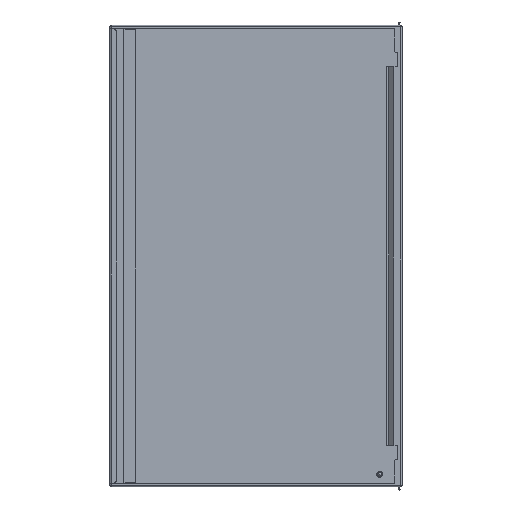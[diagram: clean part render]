
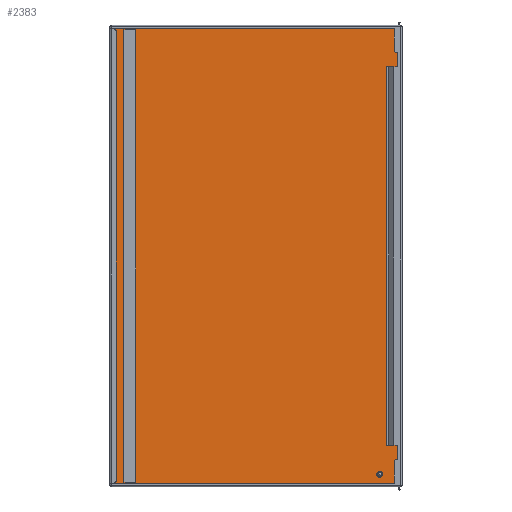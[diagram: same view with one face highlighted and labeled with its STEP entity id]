
A CAD part, top view. The second image highlights one B-rep face of the part: STEP entity #2383.
In plain terms, the highlighted planar face has unit normal (0, 0, 1).
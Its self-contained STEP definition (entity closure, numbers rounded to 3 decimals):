
#137 = VERTEX_POINT ( 'NONE', #1820 ) ;
#147 = VERTEX_POINT ( 'NONE', #1811 ) ;
#161 = VERTEX_POINT ( 'NONE', #1799 ) ;
#227 = VERTEX_POINT ( 'NONE', #1785 ) ;
#235 = VERTEX_POINT ( 'NONE', #1907 ) ;
#279 = VERTEX_POINT ( 'NONE', #1921 ) ;
#280 = EDGE_LOOP ( 'NONE', ( #4100, #4105, #4103, #4106 ) ) ;
#303 = VERTEX_POINT ( 'NONE', #1797 ) ;
#342 = VERTEX_POINT ( 'NONE', #1779 ) ;
#348 = VERTEX_POINT ( 'NONE', #1838 ) ;
#359 = EDGE_LOOP ( 'NONE', ( #4094, #4096, #4095, #4097, #4098, #4099 ) ) ;
#419 = VERTEX_POINT ( 'NONE', #1822 ) ;
#432 = VERTEX_POINT ( 'NONE', #1850 ) ;
#458 = VERTEX_POINT ( 'NONE', #4821 ) ;
#481 = VERTEX_POINT ( 'NONE', #4816 ) ;
#489 = VERTEX_POINT ( 'NONE', #4815 ) ;
#524 = VERTEX_POINT ( 'NONE', #4808 ) ;
#552 = EDGE_LOOP ( 'NONE', ( #4101, #4102 ) ) ;
#558 = EDGE_LOOP ( 'NONE', ( #4089, #4092, #4090, #4093 ) ) ;
#606 = VERTEX_POINT ( 'NONE', #4792 ) ;
#1779 = CARTESIAN_POINT ( 'NONE',  ( -295.5, 556.75, -12. ) ) ;
#1785 = CARTESIAN_POINT ( 'NONE',  ( 304.25, -536.75, -12. ) ) ;
#1797 = CARTESIAN_POINT ( 'NONE',  ( 324.621, 465.75, -12. ) ) ;
#1799 = CARTESIAN_POINT ( 'NONE',  ( 326.879, -465.75, -12. ) ) ;
#1811 = CARTESIAN_POINT ( 'NONE',  ( -356., -563.75, -12. ) ) ;
#1820 = CARTESIAN_POINT ( 'NONE',  ( -324.6, 556.75, -12. ) ) ;
#1822 = CARTESIAN_POINT ( 'NONE',  ( 356., -563.75, -12. ) ) ;
#1838 = CARTESIAN_POINT ( 'NONE',  ( 356., 563.75, -12. ) ) ;
#1850 = CARTESIAN_POINT ( 'NONE',  ( -356., 563.75, -12. ) ) ;
#1907 = CARTESIAN_POINT ( 'NONE',  ( 303.75, -536.75, -12. ) ) ;
#1921 = CARTESIAN_POINT ( 'NONE',  ( -324.6, -556.75, -12. ) ) ;
#1985 = AXIS2_PLACEMENT_3D ( 'NONE', #3196, #3174, #3173 ) ;
#2023 = VECTOR ( 'NONE', #3178, 1000. ) ;
#2030 = VECTOR ( 'NONE', #3190, 1000. ) ;
#2063 = AXIS2_PLACEMENT_3D ( 'NONE', #3258, #3257, #3256 ) ;
#2113 = VECTOR ( 'NONE', #3184, 1000. ) ;
#2141 = VECTOR ( 'NONE', #3175, 1000. ) ;
#2147 = AXIS2_PLACEMENT_3D ( 'NONE', #3172, #3168, #3167 ) ;
#2180 = VECTOR ( 'NONE', #3187, 1000. ) ;
#2266 = VECTOR ( 'NONE', #3146, 1000. ) ;
#2267 = VECTOR ( 'NONE', #3149, 1000. ) ;
#2268 = VECTOR ( 'NONE', #3154, 1000. ) ;
#2269 = VECTOR ( 'NONE', #3157, 1000. ) ;
#2270 = VECTOR ( 'NONE', #3163, 1000. ) ;
#2271 = AXIS2_PLACEMENT_3D ( 'NONE', #3166, #3162, #3161 ) ;
#2273 = VECTOR ( 'NONE', #3181, 1000. ) ;
#2274 = VECTOR ( 'NONE', #3169, 1000. ) ;
#2356 = CIRCLE ( 'NONE', #2271, 0.25 ) ;
#2383 = ADVANCED_FACE ( 'NONE', ( #4326, #4316, #4312, #4306 ), #4649, .T. ) ;
#2413 = CIRCLE ( 'NONE', #2147, 4.5 ) ;
#2571 = EDGE_CURVE ( 'NONE', #235, #227, #2946, .T. ) ;
#2593 = EDGE_CURVE ( 'NONE', #432, #348, #3192, .T. ) ;
#2594 = EDGE_CURVE ( 'NONE', #348, #419, #3189, .T. ) ;
#2595 = EDGE_CURVE ( 'NONE', #147, #432, #3186, .T. ) ;
#2596 = EDGE_CURVE ( 'NONE', #161, #458, #3183, .T. ) ;
#2597 = EDGE_CURVE ( 'NONE', #419, #147, #3180, .T. ) ;
#2598 = EDGE_CURVE ( 'NONE', #161, #489, #3177, .T. ) ;
#2599 = EDGE_CURVE ( 'NONE', #458, #524, #2958, .T. ) ;
#2600 = EDGE_CURVE ( 'NONE', #524, #481, #3171, .T. ) ;
#2601 = EDGE_CURVE ( 'NONE', #481, #303, #2413, .T. ) ;
#2602 = EDGE_CURVE ( 'NONE', #489, #303, #3165, .T. ) ;
#2603 = EDGE_CURVE ( 'NONE', #227, #235, #2356, .T. ) ;
#2604 = EDGE_CURVE ( 'NONE', #606, #342, #3159, .T. ) ;
#2605 = EDGE_CURVE ( 'NONE', #342, #137, #3156, .T. ) ;
#2606 = EDGE_CURVE ( 'NONE', #279, #606, #3153, .T. ) ;
#2607 = EDGE_CURVE ( 'NONE', #137, #279, #3148, .T. ) ;
#2946 = CIRCLE ( 'NONE', #2063, 0.25 ) ;
#2958 = CIRCLE ( 'NONE', #1985, 4.5 ) ;
#3146 = DIRECTION ( 'NONE',  ( 0., -1., 0. ) ) ;
#3147 = CARTESIAN_POINT ( 'NONE',  ( -324.6, -556.75, -12. ) ) ;
#3148 = LINE ( 'NONE', #3147, #2266 ) ;
#3149 = DIRECTION ( 'NONE',  ( 1., 0., 0. ) ) ;
#3151 = CARTESIAN_POINT ( 'NONE',  ( -324.6, -556.75, -12. ) ) ;
#3153 = LINE ( 'NONE', #3151, #2267 ) ;
#3154 = DIRECTION ( 'NONE',  ( -1., 0., 0. ) ) ;
#3155 = CARTESIAN_POINT ( 'NONE',  ( -324.6, 556.75, -12. ) ) ;
#3156 = LINE ( 'NONE', #3155, #2268 ) ;
#3157 = DIRECTION ( 'NONE',  ( 0., 1., 0. ) ) ;
#3158 = CARTESIAN_POINT ( 'NONE',  ( -295.5, -556.75, -12. ) ) ;
#3159 = LINE ( 'NONE', #3158, #2269 ) ;
#3161 = DIRECTION ( 'NONE',  ( 1., 0., 0. ) ) ;
#3162 = DIRECTION ( 'NONE',  ( 0., 0., 1. ) ) ;
#3163 = DIRECTION ( 'NONE',  ( -1., 0., 0. ) ) ;
#3164 = CARTESIAN_POINT ( 'NONE',  ( 326.879, 465.75, -12. ) ) ;
#3165 = LINE ( 'NONE', #3164, #2270 ) ;
#3166 = CARTESIAN_POINT ( 'NONE',  ( 304., -536.75, -12. ) ) ;
#3167 = DIRECTION ( 'NONE',  ( 1., 0., 0. ) ) ;
#3168 = DIRECTION ( 'NONE',  ( 0., 0., -1. ) ) ;
#3169 = DIRECTION ( 'NONE',  ( 0., 1., 0. ) ) ;
#3170 = CARTESIAN_POINT ( 'NONE',  ( 320.121, -488.171, -12. ) ) ;
#3171 = LINE ( 'NONE', #3170, #2274 ) ;
#3172 = CARTESIAN_POINT ( 'NONE',  ( 324.621, 461.25, -12. ) ) ;
#3173 = DIRECTION ( 'NONE',  ( 1., 0., 0. ) ) ;
#3174 = DIRECTION ( 'NONE',  ( 0., 0., -1. ) ) ;
#3175 = DIRECTION ( 'NONE',  ( 0., 1., 0. ) ) ;
#3176 = CARTESIAN_POINT ( 'NONE',  ( 326.879, -488.171, -12. ) ) ;
#3177 = LINE ( 'NONE', #3176, #2141 ) ;
#3178 = DIRECTION ( 'NONE',  ( -1., 0., 0. ) ) ;
#3179 = CARTESIAN_POINT ( 'NONE',  ( 0., -563.75, -12. ) ) ;
#3180 = LINE ( 'NONE', #3179, #2023 ) ;
#3181 = DIRECTION ( 'NONE',  ( -1., 0., 0. ) ) ;
#3182 = CARTESIAN_POINT ( 'NONE',  ( 326.879, -465.75, -12. ) ) ;
#3183 = LINE ( 'NONE', #3182, #2273 ) ;
#3184 = DIRECTION ( 'NONE',  ( 0., 1., 0. ) ) ;
#3185 = CARTESIAN_POINT ( 'NONE',  ( -356., 0., -12. ) ) ;
#3186 = LINE ( 'NONE', #3185, #2113 ) ;
#3187 = DIRECTION ( 'NONE',  ( 0., -1., 0. ) ) ;
#3188 = CARTESIAN_POINT ( 'NONE',  ( 356., 0., -12. ) ) ;
#3189 = LINE ( 'NONE', #3188, #2180 ) ;
#3190 = DIRECTION ( 'NONE',  ( 1., 0., 0. ) ) ;
#3191 = CARTESIAN_POINT ( 'NONE',  ( 0., 563.75, -12. ) ) ;
#3192 = LINE ( 'NONE', #3191, #2030 ) ;
#3196 = CARTESIAN_POINT ( 'NONE',  ( 324.621, -461.25, -12. ) ) ;
#3256 = DIRECTION ( 'NONE',  ( 1., 0., 0. ) ) ;
#3257 = DIRECTION ( 'NONE',  ( 0., 0., 1. ) ) ;
#3258 = CARTESIAN_POINT ( 'NONE',  ( 304., -536.75, -12. ) ) ;
#4089 = ORIENTED_EDGE ( 'NONE', *, *, #2594, .F. ) ;
#4090 = ORIENTED_EDGE ( 'NONE', *, *, #2595, .F. ) ;
#4092 = ORIENTED_EDGE ( 'NONE', *, *, #2593, .F. ) ;
#4093 = ORIENTED_EDGE ( 'NONE', *, *, #2597, .F. ) ;
#4094 = ORIENTED_EDGE ( 'NONE', *, *, #2598, .F. ) ;
#4095 = ORIENTED_EDGE ( 'NONE', *, *, #2599, .T. ) ;
#4096 = ORIENTED_EDGE ( 'NONE', *, *, #2596, .T. ) ;
#4097 = ORIENTED_EDGE ( 'NONE', *, *, #2600, .T. ) ;
#4098 = ORIENTED_EDGE ( 'NONE', *, *, #2601, .T. ) ;
#4099 = ORIENTED_EDGE ( 'NONE', *, *, #2602, .F. ) ;
#4100 = ORIENTED_EDGE ( 'NONE', *, *, #2605, .F. ) ;
#4101 = ORIENTED_EDGE ( 'NONE', *, *, #2603, .F. ) ;
#4102 = ORIENTED_EDGE ( 'NONE', *, *, #2571, .F. ) ;
#4103 = ORIENTED_EDGE ( 'NONE', *, *, #2606, .F. ) ;
#4105 = ORIENTED_EDGE ( 'NONE', *, *, #2604, .F. ) ;
#4106 = ORIENTED_EDGE ( 'NONE', *, *, #2607, .F. ) ;
#4306 = FACE_BOUND ( 'NONE', #280, .T. ) ;
#4312 = FACE_BOUND ( 'NONE', #552, .T. ) ;
#4316 = FACE_BOUND ( 'NONE', #359, .T. ) ;
#4321 = AXIS2_PLACEMENT_3D ( 'NONE', #4648, #4647, #4646 ) ;
#4326 = FACE_OUTER_BOUND ( 'NONE', #558, .T. ) ;
#4646 = DIRECTION ( 'NONE',  ( 1., 0., 0. ) ) ;
#4647 = DIRECTION ( 'NONE',  ( 0., 0., 1. ) ) ;
#4648 = CARTESIAN_POINT ( 'NONE',  ( 0., 0., -12. ) ) ;
#4649 = PLANE ( 'NONE',  #4321 ) ;
#4792 = CARTESIAN_POINT ( 'NONE',  ( -295.5, -556.75, -12. ) ) ;
#4808 = CARTESIAN_POINT ( 'NONE',  ( 320.121, -461.25, -12. ) ) ;
#4815 = CARTESIAN_POINT ( 'NONE',  ( 326.879, 465.75, -12. ) ) ;
#4816 = CARTESIAN_POINT ( 'NONE',  ( 320.121, 461.25, -12. ) ) ;
#4821 = CARTESIAN_POINT ( 'NONE',  ( 324.621, -465.75, -12. ) ) ;
